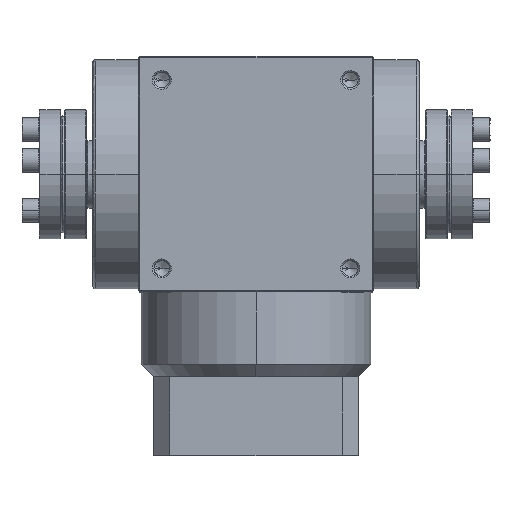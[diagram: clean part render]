
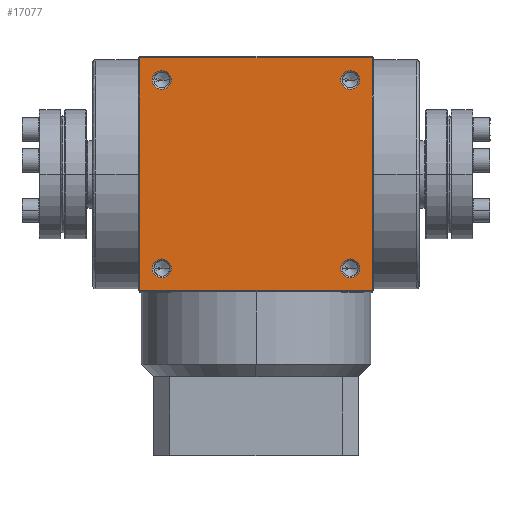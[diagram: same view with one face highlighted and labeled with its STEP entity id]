
A CAD part, top view. The second image highlights one B-rep face of the part: STEP entity #17077.
In plain terms, the highlighted planar face has unit normal (0, 0, 1).
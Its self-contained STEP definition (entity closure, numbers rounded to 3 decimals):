
#144 = DIRECTION ( 'NONE',  ( 0., -1., 0. ) ) ;
#196 = CARTESIAN_POINT ( 'NONE',  ( 30., 27., 37.5 ) ) ;
#618 = CIRCLE ( 'NONE', #14333, 3. ) ;
#853 = EDGE_LOOP ( 'NONE', ( #31299, #13659, #15895, #22785 ) ) ;
#1116 = EDGE_CURVE ( 'NONE', #7332, #22167, #15041, .T. ) ;
#1219 = VERTEX_POINT ( 'NONE', #28301 ) ;
#1407 = DIRECTION ( 'NONE',  ( 0., 0., 1. ) ) ;
#1737 = DIRECTION ( 'NONE',  ( 0., -1., 0. ) ) ;
#2081 = CARTESIAN_POINT ( 'NONE',  ( -37., 37., 37.5 ) ) ;
#2148 = VECTOR ( 'NONE', #8613, 1000. ) ;
#2526 = EDGE_CURVE ( 'NONE', #12734, #10965, #30199, .T. ) ;
#3075 = CARTESIAN_POINT ( 'NONE',  ( -30., -33., 37.5 ) ) ;
#3101 = EDGE_CURVE ( 'NONE', #16842, #27045, #618, .T. ) ;
#3670 = AXIS2_PLACEMENT_3D ( 'NONE', #23692, #21364, #1737 ) ;
#3994 = EDGE_CURVE ( 'NONE', #8562, #1219, #17631, .T. ) ;
#4358 = DIRECTION ( 'NONE',  ( 0., 0., -1. ) ) ;
#4704 = LINE ( 'NONE', #14417, #23147 ) ;
#4992 = DIRECTION ( 'NONE',  ( 0., 0., 1. ) ) ;
#5661 = AXIS2_PLACEMENT_3D ( 'NONE', #14146, #28579, #11485 ) ;
#5715 = AXIS2_PLACEMENT_3D ( 'NONE', #29596, #4992, #144 ) ;
#6000 = AXIS2_PLACEMENT_3D ( 'NONE', #24240, #4358, #11851 ) ;
#6671 = ORIENTED_EDGE ( 'NONE', *, *, #25118, .F. ) ;
#6747 = CARTESIAN_POINT ( 'NONE',  ( 37., -37., 37.5 ) ) ;
#6801 = VECTOR ( 'NONE', #25943, 1000. ) ;
#7332 = VERTEX_POINT ( 'NONE', #13581 ) ;
#8178 = FACE_BOUND ( 'NONE', #27827, .T. ) ;
#8562 = VERTEX_POINT ( 'NONE', #196 ) ;
#8613 = DIRECTION ( 'NONE',  ( 1., 0., 0. ) ) ;
#9204 = DIRECTION ( 'NONE',  ( 0., -1., 0. ) ) ;
#10044 = AXIS2_PLACEMENT_3D ( 'NONE', #18173, #15501, #28013 ) ;
#10281 = EDGE_CURVE ( 'NONE', #1219, #8562, #26232, .T. ) ;
#10344 = AXIS2_PLACEMENT_3D ( 'NONE', #20627, #22772, #10882 ) ;
#10731 = EDGE_CURVE ( 'NONE', #18692, #12734, #18156, .T. ) ;
#10882 = DIRECTION ( 'NONE',  ( 0., -1., 0. ) ) ;
#10965 = VERTEX_POINT ( 'NONE', #27411 ) ;
#10981 = DIRECTION ( 'NONE',  ( 0., -1., 0. ) ) ;
#10986 = CARTESIAN_POINT ( 'NONE',  ( -30., 33., 37.5 ) ) ;
#11180 = CARTESIAN_POINT ( 'NONE',  ( 30., 30., 37.5 ) ) ;
#11485 = DIRECTION ( 'NONE',  ( 0., -1., 0. ) ) ;
#11609 = FACE_BOUND ( 'NONE', #15921, .T. ) ;
#11642 = VECTOR ( 'NONE', #16509, 1000. ) ;
#11851 = DIRECTION ( 'NONE',  ( -1., 0., 0. ) ) ;
#12638 = ORIENTED_EDGE ( 'NONE', *, *, #3101, .F. ) ;
#12734 = VERTEX_POINT ( 'NONE', #31296 ) ;
#13455 = EDGE_CURVE ( 'NONE', #15054, #26077, #14136, .T. ) ;
#13581 = CARTESIAN_POINT ( 'NONE',  ( -30., 27., 37.5 ) ) ;
#13659 = ORIENTED_EDGE ( 'NONE', *, *, #14015, .F. ) ;
#14015 = EDGE_CURVE ( 'NONE', #17104, #18692, #21340, .T. ) ;
#14136 = CIRCLE ( 'NONE', #10044, 3. ) ;
#14146 = CARTESIAN_POINT ( 'NONE',  ( 30., -30., 37.5 ) ) ;
#14158 = ORIENTED_EDGE ( 'NONE', *, *, #10281, .F. ) ;
#14196 = DIRECTION ( 'NONE',  ( 0., 1., 0. ) ) ;
#14333 = AXIS2_PLACEMENT_3D ( 'NONE', #26347, #21753, #9204 ) ;
#14417 = CARTESIAN_POINT ( 'NONE',  ( -37., -37., 37.5 ) ) ;
#15007 = EDGE_LOOP ( 'NONE', ( #12638, #31166 ) ) ;
#15041 = CIRCLE ( 'NONE', #10344, 3. ) ;
#15054 = VERTEX_POINT ( 'NONE', #29834 ) ;
#15501 = DIRECTION ( 'NONE',  ( 0., 0., 1. ) ) ;
#15895 = ORIENTED_EDGE ( 'NONE', *, *, #17160, .F. ) ;
#15921 = EDGE_LOOP ( 'NONE', ( #27882, #6671 ) ) ;
#16114 = CIRCLE ( 'NONE', #3670, 3. ) ;
#16329 = CARTESIAN_POINT ( 'NONE',  ( 37., 37., 37.5 ) ) ;
#16509 = DIRECTION ( 'NONE',  ( 0., -1., 0. ) ) ;
#16785 = ORIENTED_EDGE ( 'NONE', *, *, #3994, .F. ) ;
#16842 = VERTEX_POINT ( 'NONE', #3075 ) ;
#17051 = ORIENTED_EDGE ( 'NONE', *, *, #19296, .F. ) ;
#17077 = ADVANCED_FACE ( 'NONE', ( #24623, #20440, #18125, #8178, #11609 ), #18786, .F. ) ;
#17104 = VERTEX_POINT ( 'NONE', #2081 ) ;
#17160 = EDGE_CURVE ( 'NONE', #10965, #17104, #4704, .T. ) ;
#17631 = CIRCLE ( 'NONE', #23782, 3. ) ;
#17983 = EDGE_LOOP ( 'NONE', ( #17051, #18653 ) ) ;
#18125 = FACE_BOUND ( 'NONE', #15007, .T. ) ;
#18156 = LINE ( 'NONE', #6747, #11642 ) ;
#18173 = CARTESIAN_POINT ( 'NONE',  ( 30., -30., 37.5 ) ) ;
#18653 = ORIENTED_EDGE ( 'NONE', *, *, #13455, .F. ) ;
#18692 = VERTEX_POINT ( 'NONE', #16329 ) ;
#18786 = PLANE ( 'NONE',  #6000 ) ;
#18888 = DIRECTION ( 'NONE',  ( 0., -1., 0. ) ) ;
#19296 = EDGE_CURVE ( 'NONE', #26077, #15054, #22480, .T. ) ;
#20440 = FACE_BOUND ( 'NONE', #17983, .T. ) ;
#20527 = CARTESIAN_POINT ( 'NONE',  ( 37., 37., 37.5 ) ) ;
#20627 = CARTESIAN_POINT ( 'NONE',  ( -30., 30., 37.5 ) ) ;
#21340 = LINE ( 'NONE', #20527, #2148 ) ;
#21364 = DIRECTION ( 'NONE',  ( 0., 0., 1. ) ) ;
#21753 = DIRECTION ( 'NONE',  ( 0., 0., 1. ) ) ;
#22167 = VERTEX_POINT ( 'NONE', #10986 ) ;
#22480 = CIRCLE ( 'NONE', #5661, 3. ) ;
#22772 = DIRECTION ( 'NONE',  ( 0., 0., 1. ) ) ;
#22785 = ORIENTED_EDGE ( 'NONE', *, *, #2526, .F. ) ;
#23147 = VECTOR ( 'NONE', #14196, 1000. ) ;
#23692 = CARTESIAN_POINT ( 'NONE',  ( -30., 30., 37.5 ) ) ;
#23782 = AXIS2_PLACEMENT_3D ( 'NONE', #11180, #1407, #10981 ) ;
#24240 = CARTESIAN_POINT ( 'NONE',  ( 37., -37., 37.5 ) ) ;
#24623 = FACE_OUTER_BOUND ( 'NONE', #853, .T. ) ;
#24752 = EDGE_CURVE ( 'NONE', #27045, #16842, #24941, .T. ) ;
#24819 = CARTESIAN_POINT ( 'NONE',  ( 30., -33., 37.5 ) ) ;
#24941 = CIRCLE ( 'NONE', #5715, 3. ) ;
#25118 = EDGE_CURVE ( 'NONE', #22167, #7332, #16114, .T. ) ;
#25414 = CARTESIAN_POINT ( 'NONE',  ( 37., -37., 37.5 ) ) ;
#25943 = DIRECTION ( 'NONE',  ( -1., 0., 0. ) ) ;
#26071 = CARTESIAN_POINT ( 'NONE',  ( 30., 30., 37.5 ) ) ;
#26077 = VERTEX_POINT ( 'NONE', #24819 ) ;
#26180 = DIRECTION ( 'NONE',  ( 0., 0., 1. ) ) ;
#26232 = CIRCLE ( 'NONE', #30629, 3. ) ;
#26347 = CARTESIAN_POINT ( 'NONE',  ( -30., -30., 37.5 ) ) ;
#27045 = VERTEX_POINT ( 'NONE', #29463 ) ;
#27411 = CARTESIAN_POINT ( 'NONE',  ( -37., -37., 37.5 ) ) ;
#27827 = EDGE_LOOP ( 'NONE', ( #16785, #14158 ) ) ;
#27882 = ORIENTED_EDGE ( 'NONE', *, *, #1116, .F. ) ;
#28013 = DIRECTION ( 'NONE',  ( 0., -1., 0. ) ) ;
#28301 = CARTESIAN_POINT ( 'NONE',  ( 30., 33., 37.5 ) ) ;
#28579 = DIRECTION ( 'NONE',  ( 0., 0., 1. ) ) ;
#29463 = CARTESIAN_POINT ( 'NONE',  ( -30., -27., 37.5 ) ) ;
#29596 = CARTESIAN_POINT ( 'NONE',  ( -30., -30., 37.5 ) ) ;
#29834 = CARTESIAN_POINT ( 'NONE',  ( 30., -27., 37.5 ) ) ;
#30199 = LINE ( 'NONE', #25414, #6801 ) ;
#30629 = AXIS2_PLACEMENT_3D ( 'NONE', #26071, #26180, #18888 ) ;
#31166 = ORIENTED_EDGE ( 'NONE', *, *, #24752, .F. ) ;
#31296 = CARTESIAN_POINT ( 'NONE',  ( 37., -37., 37.5 ) ) ;
#31299 = ORIENTED_EDGE ( 'NONE', *, *, #10731, .F. ) ;
